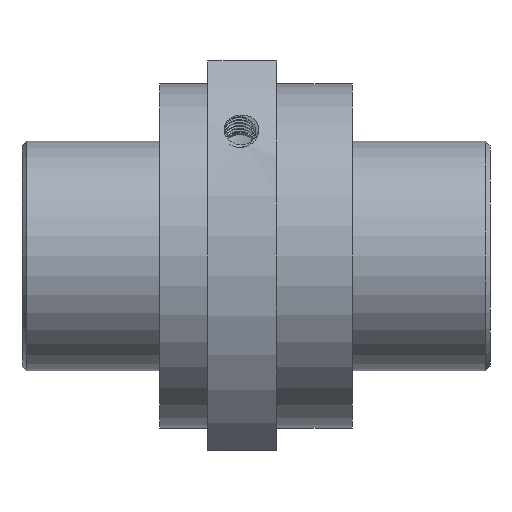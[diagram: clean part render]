
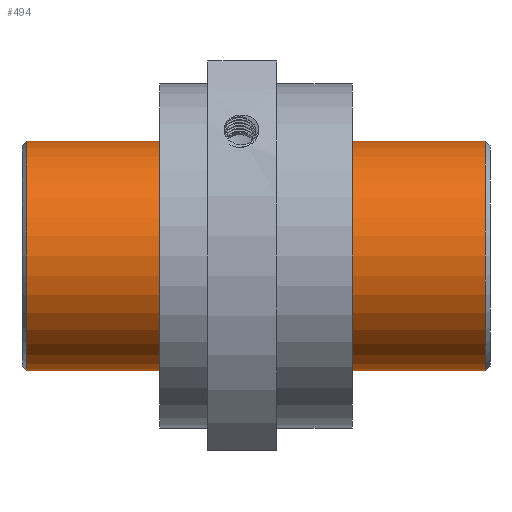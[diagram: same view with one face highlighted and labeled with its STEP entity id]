
A CAD part, front view. The second image highlights one B-rep face of the part: STEP entity #494.
In plain terms, the highlighted cylindrical face has radius 25 mm (diameter 50 mm), a full revolution.
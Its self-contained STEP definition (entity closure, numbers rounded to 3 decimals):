
#87=CYLINDRICAL_SURFACE('',#557,25.);
#109=ORIENTED_EDGE('',*,*,#214,.T.);
#110=ORIENTED_EDGE('',*,*,#215,.T.);
#214=EDGE_CURVE('',#268,#268,#313,.T.);
#215=EDGE_CURVE('',#269,#269,#314,.T.);
#268=VERTEX_POINT('',#771);
#269=VERTEX_POINT('',#774);
#313=CIRCLE('',#553,25.);
#314=CIRCLE('',#555,25.);
#351=EDGE_LOOP('',(#109));
#352=EDGE_LOOP('',(#110));
#422=FACE_BOUND('',#351,.T.);
#423=FACE_BOUND('',#352,.T.);
#494=ADVANCED_FACE('',(#422,#423),#87,.T.);
#553=AXIS2_PLACEMENT_3D('',#770,#626,#627);
#555=AXIS2_PLACEMENT_3D('',#773,#630,#631);
#557=AXIS2_PLACEMENT_3D('',#777,#634,#635);
#626=DIRECTION('',(1.,0.,0.));
#627=DIRECTION('',(0.,0.,1.));
#630=DIRECTION('',(-1.,0.,0.));
#631=DIRECTION('',(0.,0.,-1.));
#634=DIRECTION('',(-1.,0.,0.));
#635=DIRECTION('',(0.,0.,-1.));
#770=CARTESIAN_POINT('',(305.107,60.088,2.606));
#771=CARTESIAN_POINT('',(305.107,60.088,27.606));
#773=CARTESIAN_POINT('',(405.107,60.088,2.606));
#774=CARTESIAN_POINT('',(405.107,60.088,-22.394));
#777=CARTESIAN_POINT('',(355.107,60.088,2.606));
